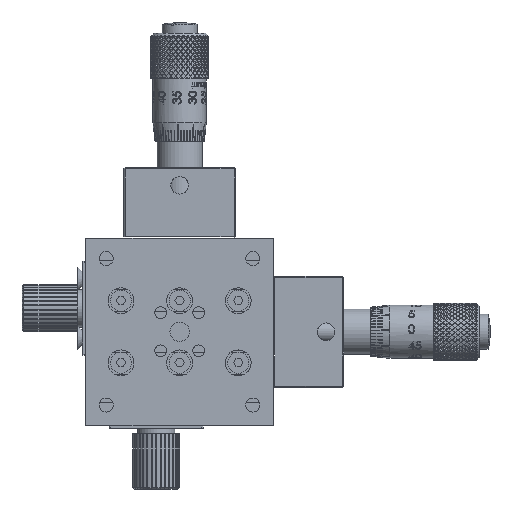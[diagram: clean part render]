
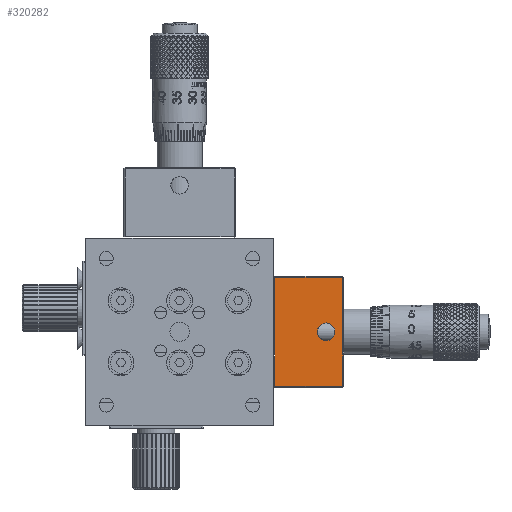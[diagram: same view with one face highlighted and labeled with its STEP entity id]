
A CAD part, front view. The second image highlights one B-rep face of the part: STEP entity #320282.
In plain terms, the highlighted planar face has unit normal (0, -1, 0).
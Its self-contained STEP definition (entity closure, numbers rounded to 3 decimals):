
#10496 = CARTESIAN_POINT ( 'NONE',  ( 21.824, -4.776, -9.3 ) ) ;
#10512 = CARTESIAN_POINT ( 'NONE',  ( 21.824, -4.776, 9.3 ) ) ;
#10536 = DIRECTION ( 'NONE',  ( 1., 0., 0. ) ) ;
#10682 = CARTESIAN_POINT ( 'NONE',  ( 21.624, -4.776, 9.5 ) ) ;
#10688 = CARTESIAN_POINT ( 'NONE',  ( 18.824, -4.776, 0. ) ) ;
#10690 = DIRECTION ( 'NONE',  ( 0., -1., 0. ) ) ;
#10692 = DIRECTION ( 'NONE',  ( 0., 0., -1. ) ) ;
#10694 = DIRECTION ( 'NONE',  ( 0., 0., 1. ) ) ;
#10700 = DIRECTION ( 'NONE',  ( -1., 0., 0. ) ) ;
#10704 = CARTESIAN_POINT ( 'NONE',  ( 10.024, -4.776, 9.5 ) ) ;
#10708 = DIRECTION ( 'NONE',  ( 0., 0., -1. ) ) ;
#63919 = ORIENTED_EDGE ( 'NONE', *, *, #73895, .F. ) ;
#63923 = ORIENTED_EDGE ( 'NONE', *, *, #73888, .T. ) ;
#63929 = ORIENTED_EDGE ( 'NONE', *, *, #73898, .T. ) ;
#63936 = ORIENTED_EDGE ( 'NONE', *, *, #73900, .T. ) ;
#63942 = ORIENTED_EDGE ( 'NONE', *, *, #73903, .T. ) ;
#73888 = EDGE_CURVE ( 'NONE', #237976, #237905, #275043, .T. ) ;
#73895 = EDGE_CURVE ( 'NONE', #316798, #316798, #275109, .T. ) ;
#73898 = EDGE_CURVE ( 'NONE', #237905, #237964, #275083, .T. ) ;
#73900 = EDGE_CURVE ( 'NONE', #237964, #237985, #275093, .T. ) ;
#73903 = EDGE_CURVE ( 'NONE', #237985, #237976, #275122, .T. ) ;
#84229 = AXIS2_PLACEMENT_3D ( 'NONE', #301200, #301218, #301221 ) ;
#149304 = FACE_BOUND ( 'NONE', #158373, .T. ) ;
#149359 = FACE_OUTER_BOUND ( 'NONE', #158321, .T. ) ;
#158006 = AXIS2_PLACEMENT_3D ( 'NONE', #10688, #10690, #10692 ) ;
#158321 = EDGE_LOOP ( 'NONE', ( #63923, #63929, #63936, #63942 ) ) ;
#158373 = EDGE_LOOP ( 'NONE', ( #63919 ) ) ;
#237905 = VERTEX_POINT ( 'NONE', #281732 ) ;
#237964 = VERTEX_POINT ( 'NONE', #281806 ) ;
#237976 = VERTEX_POINT ( 'NONE', #281823 ) ;
#237985 = VERTEX_POINT ( 'NONE', #281830 ) ;
#275043 = LINE ( 'NONE', #10496, #275098 ) ;
#275083 = LINE ( 'NONE', #10682, #275117 ) ;
#275093 = LINE ( 'NONE', #10512, #275103 ) ;
#275098 = VECTOR ( 'NONE', #10536, 1000. ) ;
#275103 = VECTOR ( 'NONE', #10700, 1000. ) ;
#275109 = CIRCLE ( 'NONE', #158006, 1.5 ) ;
#275117 = VECTOR ( 'NONE', #10694, 1000. ) ;
#275122 = LINE ( 'NONE', #10704, #275131 ) ;
#275131 = VECTOR ( 'NONE', #10708, 1000. ) ;
#281732 = CARTESIAN_POINT ( 'NONE',  ( 21.624, -4.776, -9.3 ) ) ;
#281806 = CARTESIAN_POINT ( 'NONE',  ( 21.624, -4.776, 9.3 ) ) ;
#281823 = CARTESIAN_POINT ( 'NONE',  ( 10.024, -4.776, -9.3 ) ) ;
#281830 = CARTESIAN_POINT ( 'NONE',  ( 10.024, -4.776, 9.3 ) ) ;
#301200 = CARTESIAN_POINT ( 'NONE',  ( 21.824, -4.776, 9.5 ) ) ;
#301210 = PLANE ( 'NONE',  #84229 ) ;
#301218 = DIRECTION ( 'NONE',  ( 0., 1., 0. ) ) ;
#301221 = DIRECTION ( 'NONE',  ( 0., 0., 1. ) ) ;
#315129 = CARTESIAN_POINT ( 'NONE',  ( 18.824, -4.776, -1.5 ) ) ;
#316798 = VERTEX_POINT ( 'NONE', #315129 ) ;
#320282 = ADVANCED_FACE ( 'NONE', ( #149304, #149359 ), #301210, .F. ) ;
